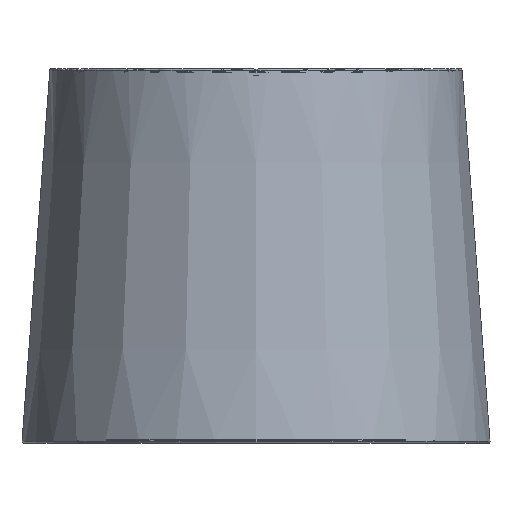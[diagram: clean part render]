
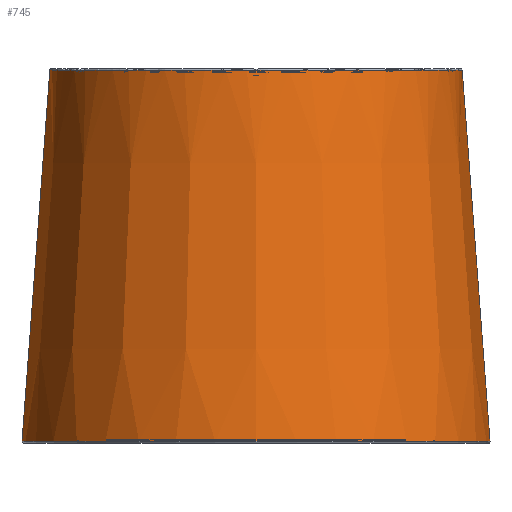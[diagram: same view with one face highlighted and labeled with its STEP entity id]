
A CAD part, left-side view. The second image highlights one B-rep face of the part: STEP entity #745.
In plain terms, the highlighted conical face has half-angle 4.288 degrees and reference radius 123.44 mm.
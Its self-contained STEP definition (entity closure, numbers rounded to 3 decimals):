
#23=CONICAL_SURFACE('',#827,123.44,0.075);
#93=FACE_OUTER_BOUND('',#149,.T.);
#149=EDGE_LOOP('',(#580,#581,#582,#583));
#197=CIRCLE('',#828,124.925);
#238=LINE('',#1365,#278);
#239=LINE('',#1368,#279);
#278=VECTOR('',#986,304.8);
#279=VECTOR('',#989,304.8);
#315=B_SPLINE_CURVE_WITH_KNOTS('',3,(#1370,#1371,#1372,#1373,#1374,#1375,
#1376,#1377,#1378,#1379,#1380,#1381,#1382),.UNSPECIFIED.,.F.,.F.,(4,1,1,
1,1,1,1,1,1,1,4),(0.,0.1,0.2,0.3,0.4,0.5,0.6,0.7,0.8,0.9,1.),
 .UNSPECIFIED.);
#350=VERTEX_POINT('',#1349);
#351=VERTEX_POINT('',#1350);
#352=VERTEX_POINT('',#1364);
#353=VERTEX_POINT('',#1366);
#427=EDGE_CURVE('',#352,#350,#238,.T.);
#429=EDGE_CURVE('',#351,#353,#239,.T.);
#430=EDGE_CURVE('',#351,#350,#315,.T.);
#431=EDGE_CURVE('',#352,#353,#197,.T.);
#580=ORIENTED_EDGE('',*,*,#430,.F.);
#581=ORIENTED_EDGE('',*,*,#429,.T.);
#582=ORIENTED_EDGE('',*,*,#431,.F.);
#583=ORIENTED_EDGE('',*,*,#427,.T.);
#745=ADVANCED_FACE('',(#93),#23,.T.);
#827=AXIS2_PLACEMENT_3D('',#1369,#990,#991);
#828=AXIS2_PLACEMENT_3D('',#1383,#992,#993);
#986=DIRECTION('',(0.,0.075,0.997));
#989=DIRECTION('',(0.,0.075,-0.997));
#990=DIRECTION('center_axis',(0.,0.,
-1.));
#991=DIRECTION('ref_axis',(-0.588,0.809,0.));
#992=DIRECTION('center_axis',(0.,0.,
-1.));
#993=DIRECTION('ref_axis',(-0.588,0.809,0.));
#1349=CARTESIAN_POINT('',(0.,-110.075,199.072));
#1350=CARTESIAN_POINT('',(0.,110.075,199.072));
#1364=CARTESIAN_POINT('',(0.,-124.925,1.));
#1365=CARTESIAN_POINT('',(0.,-124.925,1.));
#1366=CARTESIAN_POINT('',(0.,124.925,1.));
#1368=CARTESIAN_POINT('',(0.,110.075,199.072));
#1369=CARTESIAN_POINT('Origin',(0.,0.,20.807));
#1370=CARTESIAN_POINT('Ctrl Pts',(0.,110.075,199.072));
#1371=CARTESIAN_POINT('Ctrl Pts',(-11.546,110.136,199.072));
#1372=CARTESIAN_POINT('Ctrl Pts',(-34.57,106.396,199.072));
#1373=CARTESIAN_POINT('Ctrl Pts',(-65.776,90.537,199.072));
#1374=CARTESIAN_POINT('Ctrl Pts',(-90.529,65.772,199.072));
#1375=CARTESIAN_POINT('Ctrl Pts',(-106.424,34.58,199.072));
#1376=CARTESIAN_POINT('Ctrl Pts',(-111.901,0.,
199.072));
#1377=CARTESIAN_POINT('Ctrl Pts',(-106.424,-34.58,199.072));
#1378=CARTESIAN_POINT('Ctrl Pts',(-90.529,-65.772,199.072));
#1379=CARTESIAN_POINT('Ctrl Pts',(-65.776,-90.537,199.072));
#1380=CARTESIAN_POINT('Ctrl Pts',(-34.57,-106.396,199.072));
#1381=CARTESIAN_POINT('Ctrl Pts',(-11.546,-110.136,199.072));
#1382=CARTESIAN_POINT('Ctrl Pts',(0.,-110.075,
199.072));
#1383=CARTESIAN_POINT('Origin',(0.,0.,
1.));
